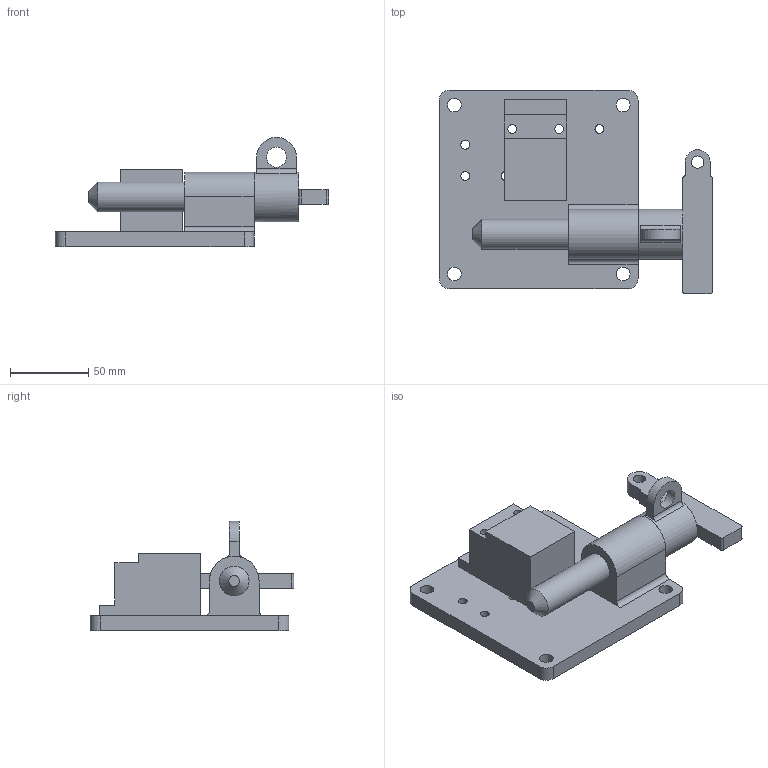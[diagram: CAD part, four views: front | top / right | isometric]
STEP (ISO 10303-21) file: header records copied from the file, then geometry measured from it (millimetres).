
FILE_DESCRIPTION(/* description */ (''),/* implementation_level */ '2;1');
FILE_NAME(/* name */ 'C:\Users\rcarver\Desktop\Tru-LOK pin\Ford-FCA\With Switch\SP19Y100TY00201.stp',/* time_stamp */ '2016-06-21T11:10:33-04:00',/* author */ ('rcarver'),/* organization */ (''),/* preprocessor_version */ 'ST-DEVELOPER v16.5',/* originating_system */ 'Autodesk Inventor 2017',/* authorisation */ '');
FILE_SCHEMA (('AUTOMOTIVE_DESIGN { 1 0 10303 214 3 1 1 }'));
Length unit declared in the file: millimetre
Products named in the file (1): SP19Y100TY00201
Bounding box: 174.62 x 130.18 x 69.85 mm (x, y, z)
Volume: 341331 mm3; surface area: 70877.8 mm2
Topology: 3 solids, 3 shells, 69 faces, 192 edges, 131 vertices
Faces by surface type: plane 37, cylinder 31, cone 1
Full cylindrical faces by diameter (mm): 5.588 x2, 5.59 x6, 7.94 x1, 8.74 x4, 12.7 x1, 19 x1, 31.75 x1
Entity records: 2196 total; most frequent: DIRECTION 368, CARTESIAN_POINT 346, ORIENTED_EDGE 320, EDGE_CURVE 160, AXIS2_PLACEMENT_3D 138, EDGE_LOOP 116, VERTEX_POINT 116, LINE 92
